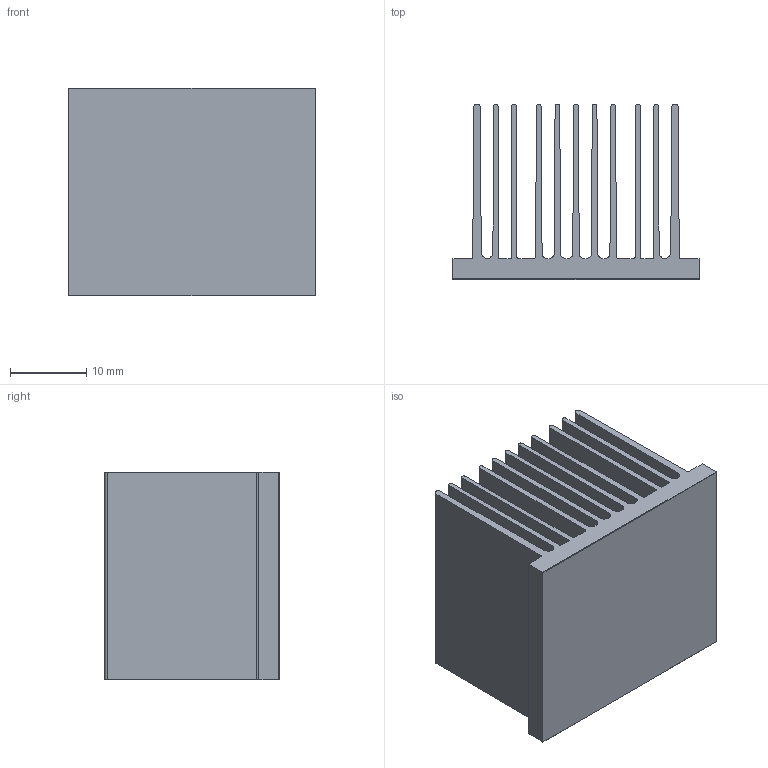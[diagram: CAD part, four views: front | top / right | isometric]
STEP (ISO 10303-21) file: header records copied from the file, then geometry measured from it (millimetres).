
FILE_DESCRIPTION (( 'STEP AP214' ), '1' );
FILE_NAME ('INH33001-23-2.6.STEP', '2023-02-17T18:15:21', ( '' ), ( '' ), 'SwSTEP 2.0', 'SolidWorks 2020', '' );
FILE_SCHEMA (( 'AUTOMOTIVE_DESIGN' ));
Length unit declared in the file: millimetre
Products named in the file (1): INH33001-23-2.6
Bounding box: 32.26 x 22.99 x 27.18 mm (x, y, z)
Volume: 7035.5 mm3; surface area: 16018.5 mm2
Topology: 2 solids, 2 shells, 72 faces, 204 edges, 136 vertices
Faces by surface type: plane 43, cylinder 29
Entity records: 3181 total; most frequent: CARTESIAN_POINT 413, ORIENTED_EDGE 408, DIRECTION 408, EDGE_CURVE 204, VECTOR 146, LINE 146, VERTEX_POINT 136, AXIS2_PLACEMENT_3D 131
